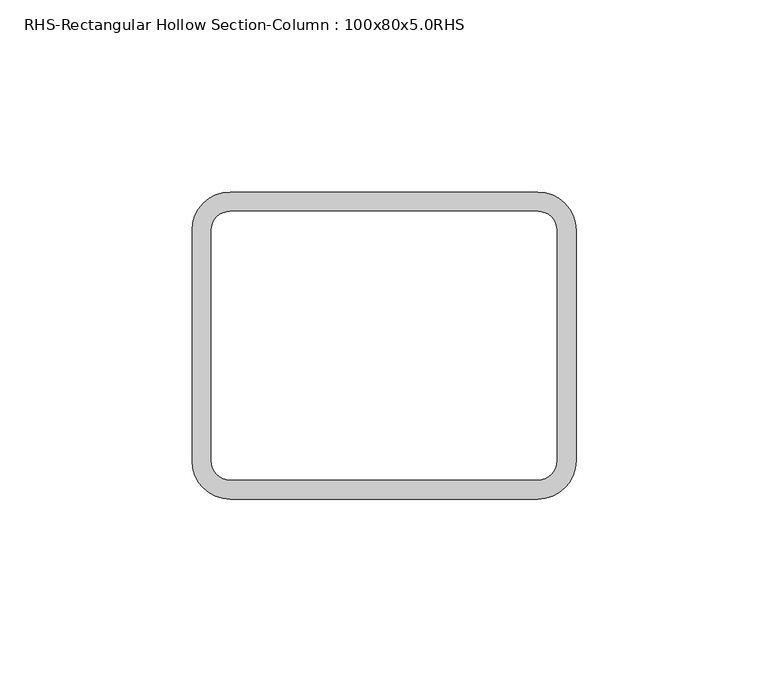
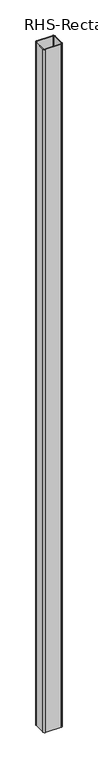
"""IFC4 building model written with IfcOpenShell, lengths in millimetres: column geometry, RHS-Rectangular Hollow Section-Column : 100x80x5.0RHS."""

from ifc_helpers import new_model, si_unit, point, frame, frame_2d, origin, place, context, project, spatial, polyline, circle_curve, trimmed, segment, composite_curve, outline, extrude, source, transform, mapped, element, save


def rhs_rectangular_hollow_section_column_100x80x5_0rhs_85d3d898(model_context):
    return source(origin(), model_context, "Body", "SweptSolid", [
        extrude(outline(composite_curve([segment(trimmed(circle_curve(frame_2d((40.0, 30.0)), 10.0), [point((40.0, 40.0))], [point((50.0, 30.0))], False, "CARTESIAN"), True, "CONTINUOUS"), segment(polyline([(50.0, 30.0), (50.0, -30.0)]), True, "CONTINUOUS"), segment(trimmed(circle_curve(frame_2d((40.0, -30.0)), 10.0), [point((50.0, -30.0))], [point((40.0, -40.0))], False, "CARTESIAN"), True, "CONTINUOUS"), segment(polyline([(40.0, -40.0), (-40.0, -40.0)]), True, "CONTINUOUS"), segment(trimmed(circle_curve(frame_2d((-40.0, -30.0)), 10.0), [point((-40.0, -40.0))], [point((-50.0, -30.0))], False, "CARTESIAN"), True, "CONTINUOUS"), segment(polyline([(-50.0, -30.0), (-50.0, 30.0)]), True, "CONTINUOUS"), segment(trimmed(circle_curve(frame_2d((-40.0, 30.0)), 10.0), [point((-50.0, 30.0))], [point((-40.0, 40.0))], False, "CARTESIAN"), True, "CONTINUOUS"), segment(polyline([(-40.0, 40.0), (40.0, 40.0)]), True, "CONTINUOUS")], self_intersect=False), holes=[composite_curve([segment(polyline([(40.0, 35.0), (-40.0, 35.0)]), True, "CONTINUOUS"), segment(trimmed(circle_curve(frame_2d((-40.0, 30.0)), 5.0), [point((-40.0, 35.0))], [point((-45.0, 30.0))], True, "CARTESIAN"), True, "CONTINUOUS"), segment(polyline([(-45.0, 30.0), (-45.0, -30.0)]), True, "CONTINUOUS"), segment(trimmed(circle_curve(frame_2d((-40.0, -30.0)), 5.0), [point((-45.0, -30.0))], [point((-40.0, -35.0))], True, "CARTESIAN"), True, "CONTINUOUS"), segment(polyline([(-40.0, -35.0), (40.0, -35.0)]), True, "CONTINUOUS"), segment(trimmed(circle_curve(frame_2d((40.0, -30.0)), 5.0), [point((40.0, -35.0))], [point((45.0, -30.0))], True, "CARTESIAN"), True, "CONTINUOUS"), segment(polyline([(45.0, -30.0), (45.0, 30.0)]), True, "CONTINUOUS"), segment(trimmed(circle_curve(frame_2d((40.0, 30.0)), 5.0), [point((45.0, 30.0))], [point((40.0, 35.0))], True, "CARTESIAN"), True, "CONTINUOUS")], self_intersect=False)]), frame((0.0, 0.0, 11160.0), z_axis=(0.0, 0.0, 1.0), x_axis=(1.0, 0.0, 0.0)), (0.0, 0.0, 1.0), 3750.0),
    ])


if __name__ == "__main__":
    model = new_model("IFC4")
    model_context = context("Model", 3, world=origin())
    ifc_project = project(units=[si_unit("LENGTHUNIT", "METRE", prefix="MILLI")], contexts=[model_context])
    site = spatial("IfcSite", under=ifc_project)
    building = spatial("IfcBuilding", under=site)
    placement = place(None, origin())
    rhs_rectangular_hollow_section_column_100x80x5_0rhs_shape = rhs_rectangular_hollow_section_column_100x80x5_0rhs_85d3d898(model_context)
    element("IfcColumn", 1, ObjectType="RHS-Rectangular Hollow Section-Column : 100x80x5.0RHS", at=placement, inside=building, context=model_context, shape_type="MappedRepresentation", body=[
        mapped(rhs_rectangular_hollow_section_column_100x80x5_0rhs_shape, transform((0.0, 0.0, 0.0), x_axis=(1.0, 0.0, 0.0), y_axis=(0.0, 1.0, 0.0), z_axis=(0.0, 0.0, 1.0))),
    ])
    save(model, "model.ifc")
